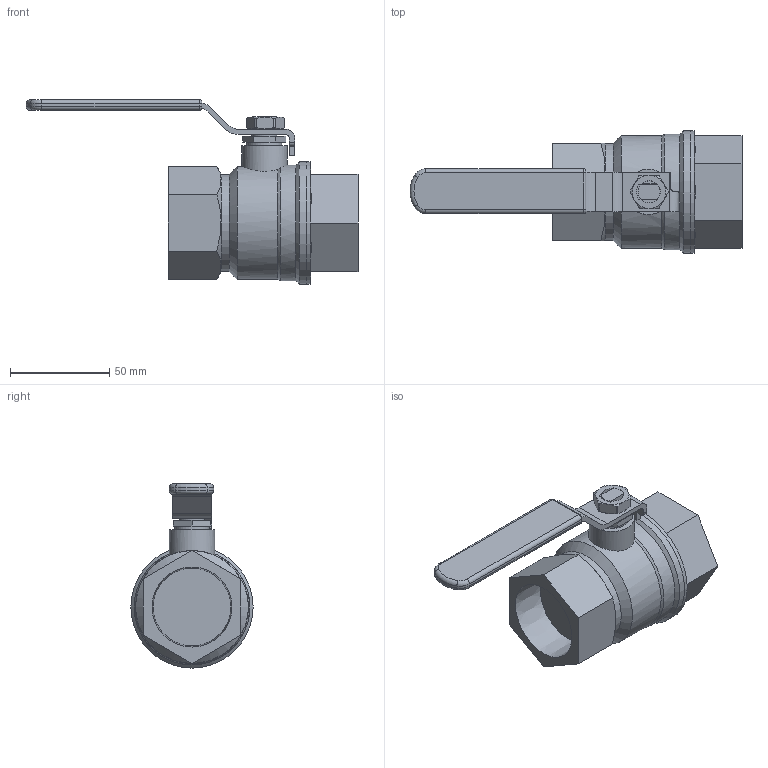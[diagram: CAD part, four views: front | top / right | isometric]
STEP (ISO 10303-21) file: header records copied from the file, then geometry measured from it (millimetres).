
FILE_DESCRIPTION((' '),'2;1');
FILE_NAME('N:\Technical Support\Private\Jomar Valve CAD\Ball Valves\Brass\T-100NE[G]\1.25 T-100NE[G] (100-706[NGDZ])FusionCopy.stp.step','2016-07-28T09:41:58',(' '),(' '),' ','ACIS',' ');
FILE_SCHEMA(('CONFIG_CONTROL_DESIGN'));
Length unit declared in the file: inch
Products named in the file (8): N:\Technical Support\Private\Jomar Valve CAD\Ball Valves\Brass\T-100NE[G]\1.25 T-100NE[G] (100-706[NGDZ])FusionCopy.stp.step; Body1; Body2; Body3; Body4; Body5; Body6; Body7
Assembly tree (7 placements, depth 2):
  N:\Technical Support\Private\Jomar Valve CAD\Ball Valves\Brass\T-100NE[G]\1.25 T-100NE[G] (100-706[NGDZ])FusionCopy.stp.step
    Body1
    Body2
    Body3
    Body4
    Body5
    Body6
    Body7
Bounding box: 166.92 x 61.52 x 92.7 mm (x, y, z)
Volume: 196365.5 mm3; surface area: 50268.6 mm2
Topology: 7 solids, 7 shells, 145 faces, 353 edges, 227 vertices
Faces by surface type: plane 70, cylinder 46, cone 19, torus 10
Full cylindrical faces by diameter (mm): 5.283 x1, 11.049 x1, 12.573 x1, 12.7 x1, 17.475 x1, 22.86 x1, 48.768 x1, 56.718 x1, 58.166 x1, 61.519 x2
Entity records: 5372 total; most frequent: CARTESIAN_POINT 1019, DIRECTION 700, ORIENTED_EDGE 652, EDGE_CURVE 326, AXIS2_PLACEMENT_3D 271, VERTEX_POINT 217, EDGE_LOOP 175, VECTOR 158
